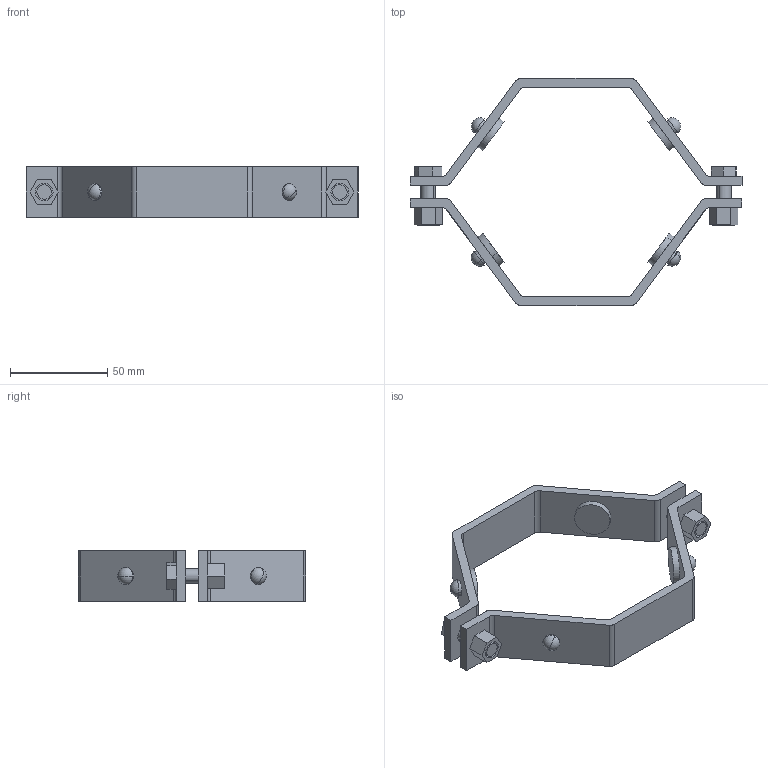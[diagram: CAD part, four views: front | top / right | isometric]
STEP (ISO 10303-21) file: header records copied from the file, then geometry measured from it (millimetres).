
FILE_DESCRIPTION (( 'STEP AP214' ), '1' );
FILE_NAME ('E24 4.0.STEP', '2025-07-16T18:17:04', ( '' ), ( '' ), 'SwSTEP 2.0', 'SolidWorks 2022', '' );
FILE_SCHEMA (( 'AUTOMOTIVE_DESIGN' ));
Length unit declared in the file: inch
Products named in the file (5): E24-2HOLE 4.0; E24NUT; E24 4.0; E24BOLT; E24GROMMET 1.5-4.0
Assembly tree (10 placements, depth 2):
  E24 4.0
    E24-2HOLE 4.0  x2
    E24BOLT  x2
    E24GROMMET 1.5-4.0  x4
    E24NUT  x2
Bounding box: 170.99 x 116.99 x 26.01 mm (x, y, z)
Volume: 60169.3 mm3; surface area: 35035.6 mm2
Topology: 10 solids, 10 shells, 144 faces, 340 edges, 228 vertices
Faces by surface type: plane 76, cylinder 60, sphere 8
Entity records: 2164 total; most frequent: DIRECTION 362, CARTESIAN_POINT 333, ORIENTED_EDGE 308, EDGE_CURVE 154, AXIS2_PLACEMENT_3D 132, VERTEX_POINT 103, VECTOR 98, LINE 98
